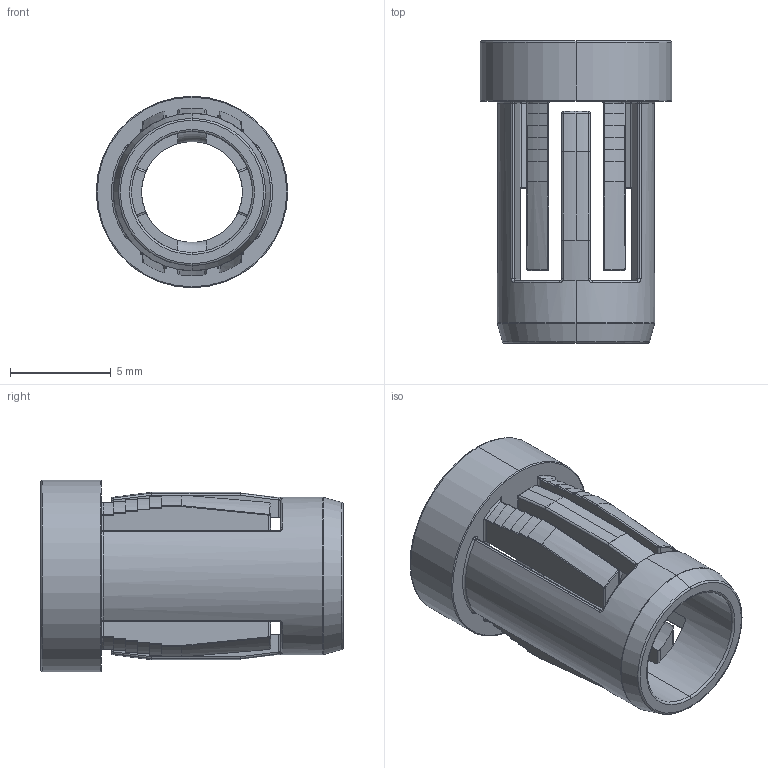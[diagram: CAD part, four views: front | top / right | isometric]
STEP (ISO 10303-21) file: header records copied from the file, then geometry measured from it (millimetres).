
FILE_DESCRIPTION (( 'STEP AP214' ), '1' );
FILE_NAME ('LED BEZEL.STEP', '2024-03-05T13:19:22', ( '' ), ( '' ), 'SwSTEP 2.0', 'SolidWorks 2023', '' );
FILE_SCHEMA (( 'AUTOMOTIVE_DESIGN' ));
Length unit declared in the file: millimetre
Products named in the file (1): LED BEZEL
Bounding box: 9.5 x 15 x 9.5 mm (x, y, z)
Volume: 307.4 mm3; surface area: 819.1 mm2
Topology: 1 solids, 1 shells, 341 faces, 871 edges, 525 vertices
Faces by surface type: cylinder 153, plane 55, bspline 52, torus 49, sphere 18, cone 14
Entity records: 12980 total; most frequent: CARTESIAN_POINT 3864, ORIENTED_EDGE 1726, DIRECTION 1707, EDGE_CURVE 863, AXIS2_PLACEMENT_3D 706, VERTEX_POINT 525, CIRCLE 416, EDGE_LOOP 348
